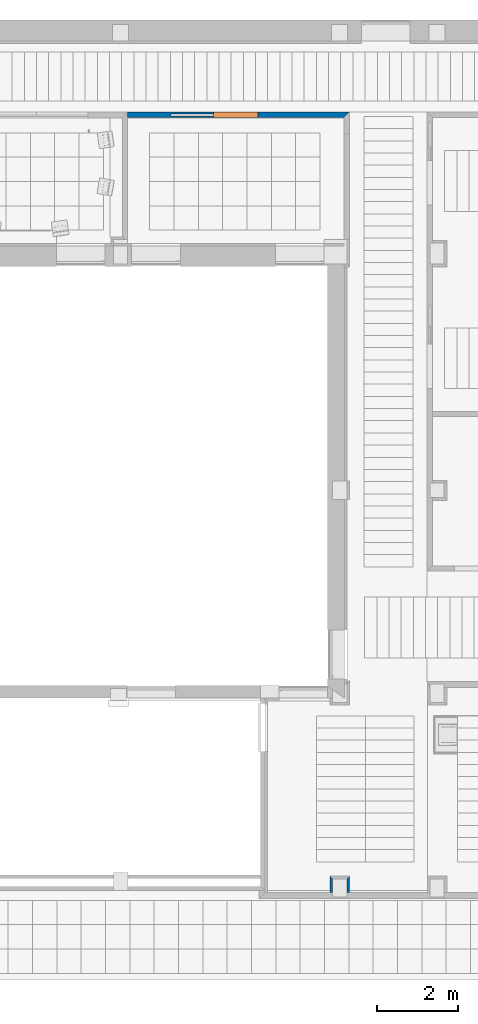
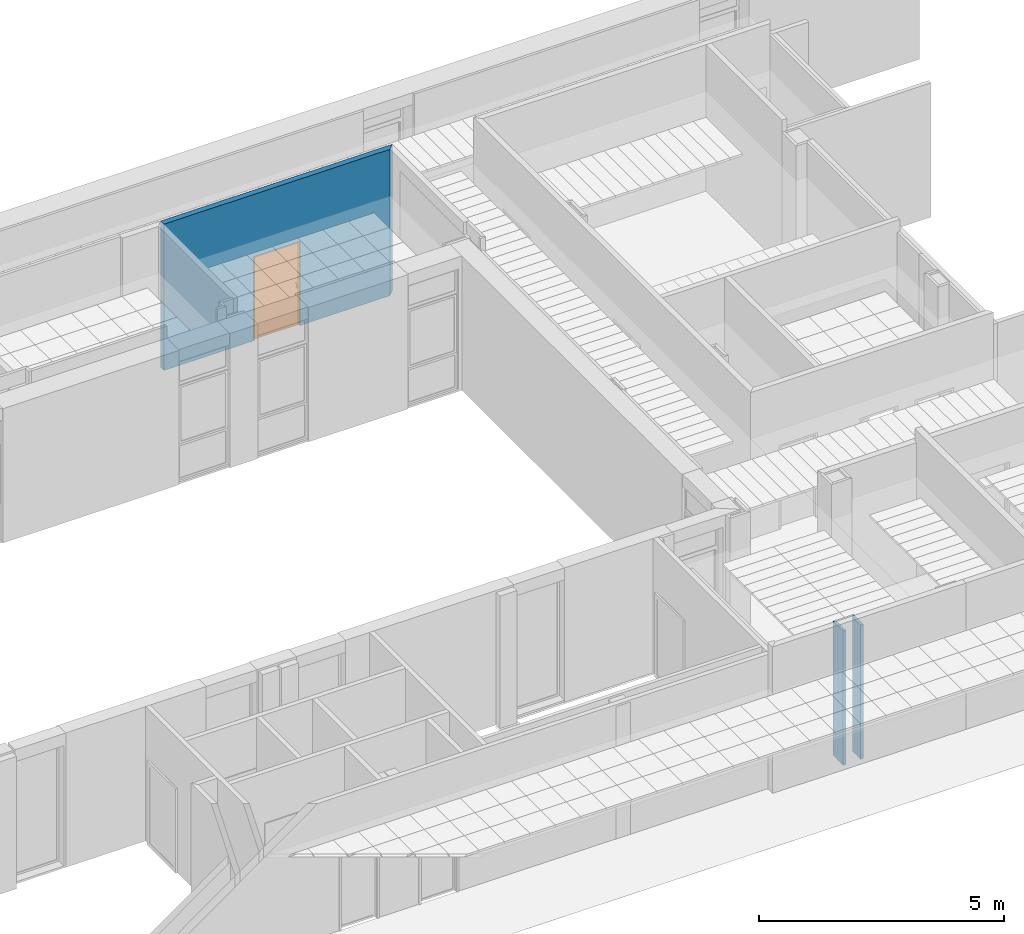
# One storey, part 40 of 60: 3 walls, 1 proxy, 1 opening.
"""IFC2X3 building model written with IfcOpenShell, lengths in millimetres."""

from ifc_helpers import new_model, entity, si_unit, converted_unit, derived_unit, money_unit, direction, frame, origin_with_axes, origin_2d_with_axis, place, context, subcontext, project, spatial, polyline, rectangle, outline, extrude, open_shell, faceted_brep, surface_model, source, transform, mapped, material, layer, layer_set, layer_usage, type_object, element, fill, save


model = new_model("IFC2X3")

# Units and contexts
model_context = context("Model", 3, precision=0.01, world=origin_with_axes(), true_north=direction((0.0, 1.0)))
body_context = subcontext(model_context, "Body", "Model", "MODEL_VIEW")
ifc_project = project(units=[si_unit("LENGTHUNIT", "METRE", prefix="MILLI"), si_unit("AREAUNIT", "SQUARE_METRE"), si_unit("VOLUMEUNIT", "CUBIC_METRE"), converted_unit("PLANEANGLEUNIT", "DEGREE", entity("IfcPlaneAngleMeasure", 0.0174532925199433), si_unit("PLANEANGLEUNIT", "RADIAN"), dimensions=[0, 0, 0, 0, 0, 0, 0]), money_unit("USD"), converted_unit("TIMEUNIT", "Year", entity("IfcTimeMeasure", 31557600.0), si_unit("TIMEUNIT", "SECOND"), dimensions=[0, 0, 1, 0, 0, 0, 0]), si_unit("MASSUNIT", "GRAM", prefix="KILO"), si_unit("THERMODYNAMICTEMPERATUREUNIT", "DEGREE_CELSIUS"), si_unit("LUMINOUSINTENSITYUNIT", "LUMEN"), si_unit("ENERGYUNIT", "JOULE", prefix="MEGA"), derived_unit("THERMALCONDUCTANCEUNIT", [(si_unit("POWERUNIT", "WATT"), 1), (si_unit("LENGTHUNIT", "METRE"), -1), (si_unit("THERMODYNAMICTEMPERATUREUNIT", "KELVIN"), -1)]), derived_unit("SPECIFICHEATCAPACITYUNIT", [(si_unit("ENERGYUNIT", "JOULE"), 1), (si_unit("MASSUNIT", "GRAM", prefix="KILO"), -1), (si_unit("THERMODYNAMICTEMPERATUREUNIT", "KELVIN"), -1)]), derived_unit("MASSDENSITYUNIT", [(si_unit("MASSUNIT", "GRAM", prefix="KILO"), 1), (si_unit("VOLUMEUNIT", "CUBIC_METRE"), -1)])], contexts=[model_context])

# Site, building, storey
site_placement = place(None, origin_with_axes())
site = spatial("IfcSite", under=ifc_project, at=site_placement, Name="Sitio", CompositionType="ELEMENT")
building_placement = place(site_placement, origin_with_axes())
building = spatial("IfcBuilding", under=site, at=building_placement, Name="Construcción", CompositionType="ELEMENT")
storey_placement = place(building_placement, frame((0.0, 0.0, 3650.0), z_axis=(0.0, 0.0, 1.0), x_axis=(1.0, 0.0, 0.0)))
storey = spatial("IfcBuildingStorey", under=building, at=storey_placement, Name="PLANTA 2ª", CompositionType="ELEMENT", Elevation=3650.0)

# Wall, opening, proxy
ifc_material_1 = material(Name="Panel de Yeso Laminado")
ifc_layer_1 = layer(ifc_material_1, 13.0, ventilated="UNKNOWN")
ifc_layer_2 = layer(ifc_material_1, 13.0, ventilated="UNKNOWN")
ifc_material_2 = material(Name="ARQ_AI033_Aillament_Llana_De_Roca")
ifc_layer_3 = layer(ifc_material_2, 70.0, ventilated="UNKNOWN")
ifc_layer_4 = layer(ifc_material_1, 13.0, ventilated="UNKNOWN")
ifc_layer_5 = layer(ifc_material_1, 13.0, ventilated="UNKNOWN")
ifc_material_3 = material(Name="ARQ_EN271_Camara_Aire")
ifc_layer_6 = layer(ifc_material_3, 6.0, ventilated="UNKNOWN")
ifc_material_4 = material(Name="ARQ_FU093_Panellat_HPL")
ifc_layer_7 = layer(ifc_material_4, 6.0, ventilated="UNKNOWN")
ifc_layer_set_1 = layer_set([ifc_layer_1, ifc_layer_2, ifc_layer_3, ifc_layer_4, ifc_layer_5, ifc_layer_6, ifc_layer_7], Name="CR Pladur 70 HPL 1 cara")
ifc_layer_usage_1 = layer_usage(ifc_layer_set_1, "AXIS2", "NEGATIVE", 0.0)
wall_type_1 = type_object("IfcWallType", Name="CR Pladur 70 HPL 1 cara 134", PredefinedType="NOTDEFINED")
wall_1_placement = place(storey_placement, frame((-1690.10900485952, 1975.554870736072, 0.0), z_axis=(0.0, 0.0, 1.0), x_axis=(-1.0, 0.0, 0.0)))
wall_1 = element("IfcWallStandardCase", 1, at=wall_1_placement, inside=storey, type_object=wall_type_1, material=ifc_layer_usage_1, Name="MS-211", context=body_context, shape_type="SweptSolid", body=[
    extrude(outline(polyline([(-133.9999999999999, -133.9999999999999), (5330.998263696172, -134.0000000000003), (5330.998263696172, 0.0), (0.0, 0.0), (-133.9999999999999, -133.9999999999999)])), origin_with_axes(), (0.0, 0.0, 1.0), 3650.0),
])
opening_placement = place(wall_1_placement, frame((2665.499131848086, 0.0, 0.0), z_axis=(0.0, 0.0, 1.0), x_axis=(1.0, 0.0, 0.0)))
opening = element("IfcOpeningElement", 2, at=opening_placement, cuts=wall_1, Name="P-04", context=body_context, shape_type="SweptSolid", body=[
    extrude(rectangle(XDim=1099.999999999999, YDim=2100.0, at=origin_2d_with_axis()), frame((0.0, -133.9999999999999, 1050.0), z_axis=(0.0, 1.0, 0.0), x_axis=(1.0, 0.0, 0.0)), (0.0, 0.0, 1.0), 402.0),
    extrude(rectangle(XDim=1044.999992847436, YDim=2080.0, at=origin_2d_with_axis()), frame((1072.499996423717, -41.9999999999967, 1040.0), z_axis=(0.0, -1.0, 0.0), x_axis=(1.0, 0.0, 0.0)), (0.0, 0.0, 1.0), 50.0),
])
building_element_proxy_type = type_object("IfcBuildingElementProxyType", Name="Puerta Corredera Empotrada 27", PredefinedType="NOTDEFINED")
shared_shape = source(origin_with_axes(), body_context, "Body", "SurfaceModel", [
    faceted_brep([(-550.0, 0.0, 0.0), (-530.0, 0.0, 0.0), (-530.0, -134.0, 0.0), (-550.0, -134.0, 0.0), (-550.0, 0.0, 2080.0), (-530.0, 0.0, 2080.0), (-530.0, -134.0, 2080.0), (-550.0, -134.0, 2080.0)], [[[0, 1, 2, 3]], [[0, 4, 5, 1]], [[1, 5, 6, 2]], [[3, 2, 6, 7]], [[4, 0, 3, 7]], [[5, 4, 7, 6]]]),
    faceted_brep([(530.0, -42.00000000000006, 2080.0), (550.0, -42.00000000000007, 2080.0), (550.0, 0.0, 2080.0), (530.0, 0.0, 2080.0), (550.0, -42.00000000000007, 0.0), (530.0, -42.00000000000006, 0.0), (550.0, 0.0, 0.0), (530.0, 0.0, 0.0)], [[[0, 1, 2, 3]], [[4, 1, 0, 5]], [[1, 4, 6, 2]], [[7, 3, 2, 6]], [[5, 0, 3, 7]], [[4, 5, 7, 6]]]),
    faceted_brep([(550.0, -92.00000000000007, 0.0), (550.0, -92.00000000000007, 2080.0), (550.0, -134.0, 2080.0), (550.0, -134.0, 0.0), (530.0, -92.00000000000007, 2080.0), (530.0, -92.00000000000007, 0.0), (530.0, -134.0, 2080.0), (530.0, -134.0, 0.0)], [[[0, 1, 2, 3]], [[4, 1, 0, 5]], [[1, 4, 6, 2]], [[2, 6, 7, 3]], [[5, 0, 3, 7]], [[4, 5, 7, 6]]]),
    faceted_brep([(-550.0, 0.0, 2100.0), (-550.0, 0.0, 2080.0), (-550.0, -134.0, 2080.0), (-550.0, -134.0, 2100.0), (550.0, 0.0, 2100.0), (550.0, 0.0, 2080.0), (530.0, 0.0, 2080.0), (-530.0, 0.0, 2080.0), (-530.0, -134.0, 2080.0), (530.0, -134.0, 2080.0), (550.0, -134.0, 2080.0), (550.0, -134.0, 2100.0)], [[[0, 1, 2, 3]], [[0, 4, 5, 6, 7, 1]], [[1, 7, 8, 2]], [[3, 2, 8, 9, 10, 11]], [[4, 0, 3, 11]], [[5, 4, 11, 10]], [[6, 5, 10, 9]], [[7, 6, 9, 8]]]),
    faceted_brep([(-473.0000000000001, -109.5, 1050.980762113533), (-473.0000000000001, -94.5, 1055.0), (-473.937822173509, -94.5, 1058.5), (-473.937822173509, -111.25, 1054.011851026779), (-473.937822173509, -107.75, 1047.949673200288), (-473.937822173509, -94.5, 1051.5), (-476.5000000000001, -94.5, 1048.937822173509), (-480.0000000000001, -94.5, 1048.0), (-483.5000000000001, -94.5, 1048.937822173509), (-486.0621778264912, -94.5, 1051.5), (-487.0000000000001, -94.5, 1055.0), (-486.0621778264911, -94.5, 1058.5), (-483.5000000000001, -94.5, 1061.062177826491), (-480.0000000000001, -94.5, 1062.0), (-476.5000000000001, -94.5, 1061.062177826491), (-476.5000000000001, -112.5310889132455, 1056.230762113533), (-473.0000000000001, -120.4807621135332, 1040.0), (-473.937822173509, -123.5118510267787, 1041.75), (-476.5000000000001, -106.4689110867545, 1045.730762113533), (-473.937822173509, -117.4496732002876, 1038.25), (-480.0000000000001, -106.0, 1044.918584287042), (-483.5000000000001, -106.4689110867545, 1045.730762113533), (-486.0621778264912, -107.75, 1047.949673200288), (-487.0000000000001, -109.5, 1050.980762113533), (-486.0621778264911, -111.25, 1054.011851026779), (-483.5000000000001, -112.5310889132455, 1056.230762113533), (-480.0000000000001, -113.0, 1057.042939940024), (-476.5000000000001, -125.7307621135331, 1043.031088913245), (-473.0000000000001, -124.5, 1025.0), (-473.937822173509, -128.0, 1025.0), (-476.5000000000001, -115.2307621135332, 1036.968911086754), (-473.937822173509, -121.0, 1025.0), (-480.0000000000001, -114.4185842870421, 1036.5), (-483.5000000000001, -115.2307621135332, 1036.968911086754), (-486.0621778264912, -117.4496732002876, 1038.25), (-487.0000000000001, -120.4807621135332, 1040.0), (-486.0621778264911, -123.5118510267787, 1041.75), (-483.5000000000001, -125.7307621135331, 1043.031088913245), (-480.0000000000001, -126.5429399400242, 1043.5), (-476.5000000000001, -130.5621778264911, 1025.0), (-480.0000000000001, -131.5, 1025.0), (-483.5000000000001, -130.5621778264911, 1025.0), (-486.0621778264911, -128.0, 1025.0), (-487.0000000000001, -124.5, 1025.0), (-486.0621778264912, -121.0, 1025.0), (-483.5000000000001, -118.4378221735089, 1025.0), (-480.0000000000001, -117.5, 1025.0), (-476.5000000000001, -118.4378221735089, 1025.0)], [[[0, 1, 2, 3]], [[4, 5, 1, 0]], [[1, 5, 6, 7, 8, 9, 10, 11, 12, 13, 14, 2]], [[3, 2, 14, 15]], [[16, 0, 3, 17]], [[18, 6, 5, 4]], [[19, 4, 0, 16]], [[20, 7, 6, 18]], [[21, 8, 7, 20]], [[22, 9, 8, 21]], [[23, 10, 9, 22]], [[24, 11, 10, 23]], [[25, 12, 11, 24]], [[26, 13, 12, 25]], [[15, 14, 13, 26]], [[17, 3, 15, 27]], [[28, 16, 17, 29]], [[30, 18, 4, 19]], [[31, 19, 16, 28]], [[32, 20, 18, 30]], [[33, 21, 20, 32]], [[34, 22, 21, 33]], [[35, 23, 22, 34]], [[36, 24, 23, 35]], [[37, 25, 24, 36]], [[38, 26, 25, 37]], [[27, 15, 26, 38]], [[29, 17, 27, 39]], [[28, 29, 39, 40, 41, 42, 43, 44, 45, 46, 47, 31]], [[47, 30, 19, 31]], [[46, 32, 30, 47]], [[45, 33, 32, 46]], [[44, 34, 33, 45]], [[43, 35, 34, 44]], [[42, 36, 35, 43]], [[41, 37, 36, 42]], [[40, 38, 37, 41]], [[39, 27, 38, 40]]]),
    faceted_brep([(-487.0, -109.5, 949.0192378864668), (-487.0, -94.5, 945.0), (-486.0621778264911, -94.5, 941.5), (-486.0621778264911, -111.25, 945.9881489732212), (-486.0621778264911, -107.75, 952.0503267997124), (-486.0621778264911, -94.5, 948.5), (-483.5, -94.5, 951.062177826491), (-480.0, -94.5, 952.0), (-476.5, -94.5, 951.062177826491), (-473.9378221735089, -94.5, 948.5), (-473.0, -94.5, 945.0), (-473.9378221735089, -94.5, 941.5), (-476.5, -94.5, 938.937822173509), (-480.0, -94.5, 938.0), (-483.5, -94.5, 938.937822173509), (-483.5, -112.5310889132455, 943.7692378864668), (-487.0, -120.4807621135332, 960.0), (-486.0621778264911, -123.5118510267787, 958.2499999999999), (-483.5, -106.4689110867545, 954.2692378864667), (-486.0621778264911, -117.4496732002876, 961.75), (-480.0, -106.0, 955.0814157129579), (-476.5, -106.4689110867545, 954.2692378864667), (-473.9378221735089, -107.75, 952.0503267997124), (-473.0, -109.5, 949.0192378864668), (-473.9378221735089, -111.25, 945.9881489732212), (-476.5, -112.5310889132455, 943.7692378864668), (-480.0, -113.0, 942.9570600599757), (-483.5, -125.7307621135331, 956.9689110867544), (-487.0, -124.5, 975.0), (-486.0621778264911, -128.0, 975.0), (-483.5, -115.2307621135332, 963.0310889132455), (-486.0621778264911, -121.0, 975.0), (-480.0, -114.4185842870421, 963.5), (-476.5, -115.2307621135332, 963.0310889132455), (-473.9378221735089, -117.4496732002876, 961.75), (-473.0, -120.4807621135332, 960.0), (-473.9378221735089, -123.5118510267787, 958.2499999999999), (-476.5, -125.7307621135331, 956.9689110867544), (-480.0, -126.5429399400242, 956.5), (-483.5, -130.5621778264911, 975.0), (-480.0, -131.5, 975.0), (-476.5, -130.5621778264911, 975.0), (-473.9378221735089, -128.0, 975.0), (-473.0, -124.5, 975.0), (-473.9378221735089, -121.0, 975.0), (-476.5, -118.4378221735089, 975.0), (-480.0, -117.5, 975.0), (-483.5, -118.4378221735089, 975.0)], [[[0, 1, 2, 3]], [[4, 5, 1, 0]], [[1, 5, 6, 7, 8, 9, 10, 11, 12, 13, 14, 2]], [[3, 2, 14, 15]], [[16, 0, 3, 17]], [[18, 6, 5, 4]], [[19, 4, 0, 16]], [[20, 7, 6, 18]], [[21, 8, 7, 20]], [[22, 9, 8, 21]], [[23, 10, 9, 22]], [[24, 11, 10, 23]], [[25, 12, 11, 24]], [[26, 13, 12, 25]], [[15, 14, 13, 26]], [[17, 3, 15, 27]], [[28, 16, 17, 29]], [[30, 18, 4, 19]], [[31, 19, 16, 28]], [[32, 20, 18, 30]], [[33, 21, 20, 32]], [[34, 22, 21, 33]], [[35, 23, 22, 34]], [[36, 24, 23, 35]], [[37, 25, 24, 36]], [[38, 26, 25, 37]], [[27, 15, 26, 38]], [[29, 17, 27, 39]], [[28, 29, 39, 40, 41, 42, 43, 44, 45, 46, 47, 31]], [[47, 30, 19, 31]], [[46, 32, 30, 47]], [[45, 33, 32, 46]], [[44, 34, 33, 45]], [[43, 35, 34, 44]], [[42, 36, 35, 43]], [[41, 37, 36, 42]], [[40, 38, 37, 41]], [[39, 27, 38, 40]]]),
    surface_model("IfcShellBasedSurfaceModel", [(-473.0, -124.5, 975.0), (-473.9378221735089, -121.0, 975.0), (-473.9378221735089, -121.0, 1025.0), (-473.0, -124.5, 1025.0), (-476.5, -118.4378221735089, 975.0), (-476.5, -118.4378221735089, 1025.0), (-473.9378221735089, -128.0, 975.0), (-473.9378221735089, -128.0, 1025.0), (-480.0, -117.5, 975.0), (-480.0, -117.5, 1025.0), (-476.5, -130.5621778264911, 975.0), (-476.5, -130.5621778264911, 1025.0), (-483.5, -118.4378221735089, 975.0), (-483.5, -118.4378221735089, 1025.0), (-480.0, -131.5, 975.0), (-480.0, -131.5, 1025.0), (-486.0621778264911, -121.0, 975.0), (-486.0621778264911, -121.0, 1025.0), (-483.5, -130.5621778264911, 975.0), (-483.5, -130.5621778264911, 1025.0), (-487.0, -124.5, 975.0), (-487.0, -124.5, 1025.0), (-486.0621778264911, -128.0, 975.0), (-486.0621778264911, -128.0, 1025.0)], [open_shell([[[0, 1, 2, 3]], [[1, 4, 5, 2]], [[6, 0, 3, 7]], [[4, 8, 9, 5]], [[10, 6, 7, 11]], [[8, 12, 13, 9]], [[14, 10, 11, 15]], [[12, 16, 17, 13]], [[18, 14, 15, 19]], [[16, 20, 21, 17]], [[22, 18, 19, 23]], [[20, 22, 23, 21]]])]),
    faceted_brep([(-462.6794919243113, -87.0, 1045.0), (-470.0, -87.0, 1037.679491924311), (-480.0, -87.0, 1035.0), (-490.0, -87.0, 1037.679491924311), (-497.3205080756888, -87.0, 1045.0), (-500.0, -87.0, 1055.0), (-497.3205080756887, -87.0, 1065.0), (-490.0, -87.0, 1072.320508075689), (-480.0, -87.0, 1075.0), (-470.0, -87.0, 1072.320508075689), (-462.6794919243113, -87.0, 1065.0), (-459.9999999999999, -87.0, 1055.0), (-462.6794919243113, -94.5, 1045.0), (-470.0, -94.5, 1037.679491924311), (-480.0, -94.5, 1035.0), (-490.0, -94.5, 1037.679491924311), (-497.3205080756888, -94.5, 1045.0), (-500.0, -94.5, 1055.0), (-497.3205080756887, -94.5, 1065.0), (-490.0, -94.5, 1072.320508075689), (-480.0, -94.5, 1075.0), (-470.0, -94.5, 1072.320508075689), (-462.6794919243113, -94.5, 1065.0), (-459.9999999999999, -94.5, 1055.0)], [[[0, 1, 2, 3, 4, 5, 6, 7, 8, 9, 10, 11]], [[1, 0, 12, 13]], [[2, 1, 13, 14]], [[3, 2, 14, 15]], [[4, 3, 15, 16]], [[5, 4, 16, 17]], [[6, 5, 17, 18]], [[7, 6, 18, 19]], [[8, 7, 19, 20]], [[9, 8, 20, 21]], [[10, 9, 21, 22]], [[11, 10, 22, 23]], [[0, 11, 23, 12]], [[12, 23, 22, 21, 20, 19, 18, 17, 16, 15, 14, 13]]]),
    faceted_brep([(-462.6794919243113, -87.0, 934.9999999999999), (-470.0, -87.0, 927.6794919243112), (-480.0, -87.0, 924.9999999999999), (-490.0, -87.0, 927.6794919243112), (-497.3205080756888, -87.0, 934.9999999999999), (-500.0, -87.0, 945.0), (-497.3205080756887, -87.0, 955.0), (-490.0, -87.0, 962.3205080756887), (-480.0, -87.0, 965.0), (-470.0, -87.0, 962.3205080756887), (-462.6794919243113, -87.0, 955.0), (-459.9999999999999, -87.0, 945.0), (-462.6794919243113, -94.5, 934.9999999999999), (-470.0, -94.5, 927.6794919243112), (-480.0, -94.5, 924.9999999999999), (-490.0, -94.5, 927.6794919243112), (-497.3205080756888, -94.5, 934.9999999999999), (-500.0, -94.5, 945.0), (-497.3205080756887, -94.5, 955.0), (-490.0, -94.5, 962.3205080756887), (-480.0, -94.5, 965.0), (-470.0, -94.5, 962.3205080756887), (-462.6794919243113, -94.5, 955.0), (-459.9999999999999, -94.5, 945.0)], [[[0, 1, 2, 3, 4, 5, 6, 7, 8, 9, 10, 11]], [[1, 0, 12, 13]], [[2, 1, 13, 14]], [[3, 2, 14, 15]], [[4, 3, 15, 16]], [[5, 4, 16, 17]], [[6, 5, 17, 18]], [[7, 6, 18, 19]], [[8, 7, 19, 20]], [[9, 8, 20, 21]], [[10, 9, 21, 22]], [[11, 10, 22, 23]], [[0, 11, 23, 12]], [[12, 23, 22, 21, 20, 19, 18, 17, 16, 15, 14, 13]]]),
    faceted_brep([(-473.0, -24.49999999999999, 1050.980762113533), (-473.9378221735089, -22.75, 1054.011851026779), (-473.9378221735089, -39.49999999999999, 1058.5), (-473.0, -39.49999999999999, 1055.0), (-473.0, -13.51923788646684, 1040.0), (-473.9378221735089, -10.4881489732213, 1041.75), (-476.5, -21.46891108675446, 1056.230762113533), (-476.5, -39.49999999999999, 1061.062177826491), (-480.0, -39.49999999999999, 1062.0), (-483.5, -39.49999999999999, 1061.062177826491), (-486.0621778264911, -39.49999999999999, 1058.5), (-487.0, -39.49999999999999, 1055.0), (-486.0621778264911, -39.49999999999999, 1051.5), (-483.5, -39.49999999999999, 1048.937822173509), (-480.0, -39.49999999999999, 1048.0), (-476.5, -39.49999999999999, 1048.937822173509), (-473.9378221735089, -39.49999999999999, 1051.5), (-473.9378221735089, -26.25, 1047.949673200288), (-473.0, -9.499999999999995, 1025.0), (-473.9378221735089, -5.999999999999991, 1025.0), (-476.5, -8.269237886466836, 1043.031088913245), (-473.9378221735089, -16.55032679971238, 1038.25), (-480.0, -21.0, 1057.042939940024), (-483.5, -21.46891108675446, 1056.230762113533), (-486.0621778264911, -22.75, 1054.011851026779), (-487.0, -24.49999999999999, 1050.980762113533), (-486.0621778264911, -26.25, 1047.949673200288), (-483.5, -27.53108891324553, 1045.730762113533), (-480.0, -28.0, 1044.918584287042), (-476.5, -27.53108891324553, 1045.730762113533), (-473.9378221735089, -13.0, 1025.0), (-476.5, -15.56217782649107, 1025.0), (-480.0, -16.49999999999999, 1025.0), (-483.5, -15.56217782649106, 1025.0), (-486.0621778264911, -12.99999999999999, 1025.0), (-487.0, -9.499999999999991, 1025.0), (-486.0621778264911, -5.999999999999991, 1025.0), (-483.5, -3.437822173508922, 1025.0), (-480.0, -2.499999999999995, 1025.0), (-476.5, -3.437822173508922, 1025.0), (-480.0, -7.457060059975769, 1043.5), (-476.5, -18.76923788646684, 1036.968911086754), (-483.5, -8.269237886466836, 1043.031088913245), (-486.0621778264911, -10.4881489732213, 1041.75), (-487.0, -13.51923788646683, 1040.0), (-486.0621778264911, -16.55032679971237, 1038.25), (-483.5, -18.76923788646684, 1036.968911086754), (-480.0, -19.58141571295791, 1036.5)], [[[0, 1, 2, 3]], [[4, 5, 1, 0]], [[1, 6, 7, 2]], [[3, 2, 7, 8, 9, 10, 11, 12, 13, 14, 15, 16]], [[17, 0, 3, 16]], [[18, 19, 5, 4]], [[5, 20, 6, 1]], [[21, 4, 0, 17]], [[6, 22, 8, 7]], [[22, 23, 9, 8]], [[23, 24, 10, 9]], [[24, 25, 11, 10]], [[25, 26, 12, 11]], [[26, 27, 13, 12]], [[27, 28, 14, 13]], [[28, 29, 15, 14]], [[29, 17, 16, 15]], [[18, 30, 31, 32, 33, 34, 35, 36, 37, 38, 39, 19]], [[19, 39, 20, 5]], [[30, 18, 4, 21]], [[20, 40, 22, 6]], [[41, 21, 17, 29]], [[40, 42, 23, 22]], [[42, 43, 24, 23]], [[43, 44, 25, 24]], [[44, 45, 26, 25]], [[45, 46, 27, 26]], [[46, 47, 28, 27]], [[47, 41, 29, 28]], [[31, 30, 21, 41]], [[32, 31, 41, 47]], [[33, 32, 47, 46]], [[34, 33, 46, 45]], [[35, 34, 45, 44]], [[36, 35, 44, 43]], [[37, 36, 43, 42]], [[38, 37, 42, 40]], [[39, 38, 40, 20]]]),
    faceted_brep([(-487.0, -24.5, 949.0192378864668), (-486.0621778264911, -22.75, 945.9881489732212), (-486.0621778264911, -39.5, 941.5), (-487.0, -39.5, 945.0), (-487.0, -13.51923788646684, 960.0), (-486.0621778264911, -10.48814897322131, 958.2499999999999), (-483.5, -21.46891108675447, 943.7692378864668), (-483.5, -39.5, 938.937822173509), (-480.0, -39.5, 938.0), (-476.5, -39.5, 938.937822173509), (-473.9378221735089, -39.5, 941.5), (-473.0, -39.5, 945.0), (-473.9378221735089, -39.5, 948.5), (-476.5, -39.5, 951.062177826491), (-480.0, -39.5, 952.0), (-483.5, -39.5, 951.062177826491), (-486.0621778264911, -39.5, 948.5), (-486.0621778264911, -26.25000000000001, 952.0503267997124), (-487.0, -9.500000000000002, 975.0), (-486.0621778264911, -5.999999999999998, 975.0), (-483.5, -8.269237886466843, 956.9689110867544), (-486.0621778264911, -16.55032679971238, 961.75), (-480.0, -21.0, 942.9570600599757), (-476.5, -21.46891108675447, 943.7692378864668), (-473.9378221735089, -22.75, 945.9881489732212), (-473.0, -24.5, 949.0192378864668), (-473.9378221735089, -26.25, 952.0503267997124), (-476.5, -27.53108891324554, 954.2692378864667), (-480.0, -28.0, 955.0814157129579), (-483.5, -27.53108891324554, 954.2692378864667), (-486.0621778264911, -13.00000000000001, 975.0), (-483.5, -15.56217782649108, 975.0), (-480.0, -16.5, 975.0), (-476.5, -15.56217782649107, 975.0), (-473.9378221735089, -13.0, 975.0), (-473.0, -9.499999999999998, 975.0), (-473.9378221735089, -5.999999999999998, 975.0), (-476.5, -3.43782217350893, 975.0), (-480.0, -2.500000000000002, 975.0), (-483.5, -3.43782217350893, 975.0), (-480.0, -7.457060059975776, 956.5), (-483.5, -18.76923788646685, 963.0310889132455), (-476.5, -8.269237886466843, 956.9689110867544), (-473.9378221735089, -10.48814897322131, 958.2499999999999), (-473.0, -13.51923788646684, 960.0), (-473.9378221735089, -16.55032679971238, 961.75), (-476.5, -18.76923788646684, 963.0310889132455), (-480.0, -19.58141571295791, 963.5)], [[[0, 1, 2, 3]], [[4, 5, 1, 0]], [[1, 6, 7, 2]], [[3, 2, 7, 8, 9, 10, 11, 12, 13, 14, 15, 16]], [[17, 0, 3, 16]], [[18, 19, 5, 4]], [[5, 20, 6, 1]], [[21, 4, 0, 17]], [[6, 22, 8, 7]], [[22, 23, 9, 8]], [[23, 24, 10, 9]], [[24, 25, 11, 10]], [[25, 26, 12, 11]], [[26, 27, 13, 12]], [[27, 28, 14, 13]], [[28, 29, 15, 14]], [[29, 17, 16, 15]], [[18, 30, 31, 32, 33, 34, 35, 36, 37, 38, 39, 19]], [[19, 39, 20, 5]], [[30, 18, 4, 21]], [[20, 40, 22, 6]], [[41, 21, 17, 29]], [[40, 42, 23, 22]], [[42, 43, 24, 23]], [[43, 44, 25, 24]], [[44, 45, 26, 25]], [[45, 46, 27, 26]], [[46, 47, 28, 27]], [[47, 41, 29, 28]], [[31, 30, 21, 41]], [[32, 31, 41, 47]], [[33, 32, 47, 46]], [[34, 33, 46, 45]], [[35, 34, 45, 44]], [[36, 35, 44, 43]], [[37, 36, 43, 42]], [[38, 37, 42, 40]], [[39, 38, 40, 20]]]),
    surface_model("IfcShellBasedSurfaceModel", [(-473.0, -9.500000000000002, 975.0), (-473.0, -9.499999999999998, 1025.0), (-473.9378221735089, -13.0, 1025.0), (-473.9378221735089, -13.0, 975.0), (-473.9378221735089, -5.999999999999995, 975.0), (-473.9378221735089, -5.999999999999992, 1025.0), (-476.5, -15.56217782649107, 1025.0), (-476.5, -15.56217782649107, 975.0), (-476.5, -3.437822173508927, 975.0), (-476.5, -3.437822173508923, 1025.0), (-480.0, -16.5, 1025.0), (-480.0, -16.5, 975.0), (-480.0, -2.500000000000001, 975.0), (-480.0, -2.499999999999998, 1025.0), (-483.5, -15.56217782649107, 1025.0), (-483.5, -15.56217782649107, 975.0), (-483.5, -3.437822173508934, 975.0), (-483.5, -3.43782217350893, 1025.0), (-486.0621778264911, -13.0, 1025.0), (-486.0621778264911, -13.00000000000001, 975.0), (-486.0621778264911, -6.000000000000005, 975.0), (-486.0621778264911, -6.000000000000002, 1025.0), (-487.0, -9.500000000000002, 1025.0), (-487.0, -9.500000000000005, 975.0)], [open_shell([[[0, 1, 2, 3]], [[4, 5, 1, 0]], [[3, 2, 6, 7]], [[8, 9, 5, 4]], [[7, 6, 10, 11]], [[12, 13, 9, 8]], [[11, 10, 14, 15]], [[16, 17, 13, 12]], [[15, 14, 18, 19]], [[20, 21, 17, 16]], [[19, 18, 22, 23]], [[23, 22, 21, 20]]])]),
    faceted_brep([(-462.6794919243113, -47.0, 1045.0), (-459.9999999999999, -47.0, 1055.0), (-462.6794919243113, -47.0, 1065.0), (-470.0, -47.0, 1072.320508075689), (-480.0, -47.0, 1075.0), (-490.0, -47.0, 1072.320508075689), (-497.3205080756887, -47.0, 1065.0), (-500.0, -47.0, 1055.0), (-497.3205080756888, -47.0, 1045.0), (-490.0, -47.0, 1037.679491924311), (-480.0, -47.0, 1035.0), (-470.0, -47.0, 1037.679491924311), (-462.6794919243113, -39.5, 1045.0), (-459.9999999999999, -39.5, 1055.0), (-462.6794919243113, -39.5, 1065.0), (-470.0, -39.5, 1072.320508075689), (-480.0, -39.5, 1075.0), (-490.0, -39.5, 1072.320508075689), (-497.3205080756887, -39.5, 1065.0), (-500.0, -39.5, 1055.0), (-497.3205080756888, -39.5, 1045.0), (-490.0, -39.5, 1037.679491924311), (-480.0, -39.5, 1035.0), (-470.0, -39.5, 1037.679491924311)], [[[0, 1, 2, 3, 4, 5, 6, 7, 8, 9, 10, 11]], [[0, 12, 13, 1]], [[1, 13, 14, 2]], [[2, 14, 15, 3]], [[3, 15, 16, 4]], [[4, 16, 17, 5]], [[5, 17, 18, 6]], [[6, 18, 19, 7]], [[7, 19, 20, 8]], [[8, 20, 21, 9]], [[9, 21, 22, 10]], [[10, 22, 23, 11]], [[11, 23, 12, 0]], [[12, 23, 22, 21, 20, 19, 18, 17, 16, 15, 14, 13]]]),
    faceted_brep([(-462.6794919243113, -47.0, 934.9999999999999), (-459.9999999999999, -47.0, 945.0), (-462.6794919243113, -47.0, 955.0), (-470.0, -47.0, 962.3205080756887), (-480.0, -47.0, 965.0), (-490.0, -47.0, 962.3205080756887), (-497.3205080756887, -47.0, 955.0), (-500.0, -47.0, 945.0), (-497.3205080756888, -47.0, 934.9999999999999), (-490.0, -47.0, 927.6794919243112), (-480.0, -47.0, 924.9999999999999), (-470.0, -47.0, 927.6794919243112), (-462.6794919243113, -39.5, 934.9999999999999), (-459.9999999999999, -39.5, 945.0), (-462.6794919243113, -39.5, 955.0), (-470.0, -39.5, 962.3205080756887), (-480.0, -39.5, 965.0), (-490.0, -39.5, 962.3205080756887), (-497.3205080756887, -39.5, 955.0), (-500.0, -39.5, 945.0), (-497.3205080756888, -39.5, 934.9999999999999), (-490.0, -39.5, 927.6794919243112), (-480.0, -39.5, 924.9999999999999), (-470.0, -39.5, 927.6794919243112)], [[[0, 1, 2, 3, 4, 5, 6, 7, 8, 9, 10, 11]], [[0, 12, 13, 1]], [[1, 13, 14, 2]], [[2, 14, 15, 3]], [[3, 15, 16, 4]], [[4, 16, 17, 5]], [[5, 17, 18, 6]], [[6, 18, 19, 7]], [[7, 19, 20, 8]], [[8, 20, 21, 9]], [[9, 21, 22, 10]], [[10, 22, 23, 11]], [[11, 23, 12, 0]], [[12, 23, 22, 21, 20, 19, 18, 17, 16, 15, 14, 13]]]),
    faceted_brep([(530.0, -47.0, 0.0), (530.0, -87.0, 0.0), (-530.0, -87.0, 0.0), (-530.0, -47.0, 0.0), (530.0, -47.00000000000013, 2080.0), (530.0, -87.00000000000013, 2080.0), (-530.0, -87.00000000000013, 2080.0), (-530.0, -47.00000000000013, 2080.0)], [[[0, 1, 2, 3]], [[4, 5, 1, 0]], [[1, 5, 6, 2]], [[3, 2, 6, 7]], [[0, 3, 7, 4]], [[7, 6, 5, 4]]]),
])
proxy_placement = place(opening_placement, frame((-549.9999999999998, 0.0, 0.0), z_axis=(0.0, 0.0, 1.0), x_axis=(1.0, 0.0, 0.0)))
proxy = element("IfcBuildingElementProxy", 3, at=proxy_placement, inside=storey, type_object=building_element_proxy_type, Name="P-04", context=body_context, shape_type="MappedRepresentation", body=[
    mapped(shared_shape, transform((549.9999999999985, 0.0, 0.0))),
])
fill(opening, proxy)

# Walls
ifc_layer_8 = layer(ifc_material_4, 6.0, ventilated="UNKNOWN")
ifc_layer_9 = layer(ifc_material_3, 6.0, ventilated="UNKNOWN")
ifc_layer_10 = layer(ifc_material_1, 13.0, ventilated="UNKNOWN")
ifc_layer_11 = layer(ifc_material_2, 40.0, ventilated="UNKNOWN")
ifc_layer_set_2 = layer_set([ifc_layer_8, ifc_layer_9, ifc_layer_10, ifc_layer_11], Name="Pladur Tras 40 / 1N +HPL")
ifc_layer_usage_2 = layer_usage(ifc_layer_set_2, "AXIS2", "POSITIVE", -65.0)
wall_type_2 = type_object("IfcWallType", Name="Pladur Tras 40 / 1N +HPL 65", PredefinedType="NOTDEFINED")
wall_2_placement = place(storey_placement, frame((-1971.109054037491, -16788.97582240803, 0.0), z_axis=(0.0, 0.0, 1.0), x_axis=(0.0, -1.0, 0.0)))
element("IfcWallStandardCase", 4, at=wall_2_placement, inside=storey, type_object=wall_type_2, material=ifc_layer_usage_2, Name="MS-228", context=body_context, shape_type="SweptSolid", body=[
    extrude(outline(polyline([(-65.00000000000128, -64.99999999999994), (341.9998366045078, -64.99999999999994), (341.9998366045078, 0.0), (0.0, 0.0), (-65.00000000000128, -64.99999999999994)])), origin_with_axes(), (0.0, 0.0, 1.0), 3350.0),
])
ifc_layer_usage_3 = layer_usage(ifc_layer_set_2, "AXIS2", "POSITIVE", -65.0)
wall_3_placement = place(storey_placement, frame((-1621.109001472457, -17276.97565901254, 0.0), z_axis=(0.0, 0.0, 1.0), x_axis=(0.0, 1.0, 0.0)))
element("IfcWallStandardCase", 5, at=wall_3_placement, inside=storey, type_object=wall_type_2, material=ifc_layer_usage_3, Name="MS-226", context=body_context, shape_type="SweptSolid", body=[
    extrude(outline(polyline([(146.0000000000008, -64.99999999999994), (552.9998366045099, -64.99999999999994), (487.9998366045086, 0.0), (146.0000000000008, 0.0), (146.0000000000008, -64.99999999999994)])), origin_with_axes(), (0.0, 0.0, 1.0), 3350.0),
])

save(model, "model.ifc")
